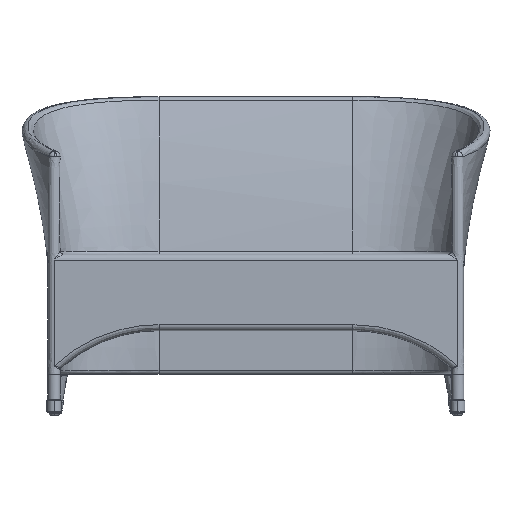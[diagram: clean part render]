
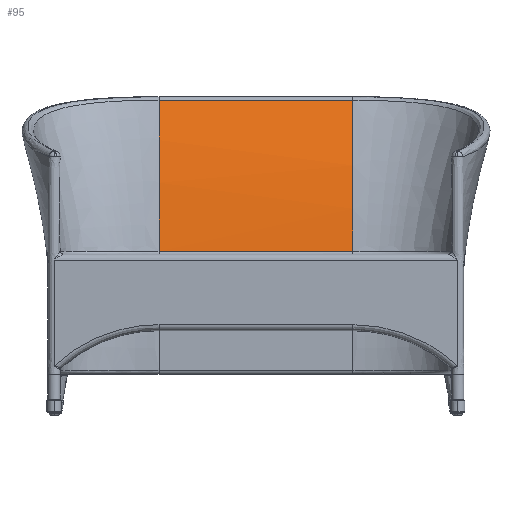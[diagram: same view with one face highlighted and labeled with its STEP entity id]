
A CAD part, front view. The second image highlights one B-rep face of the part: STEP entity #95.
In plain terms, the highlighted free-form (B-spline) face has degree [3, 1] with [11, 2] control points.
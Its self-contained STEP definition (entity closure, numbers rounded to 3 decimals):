
#95=ADVANCED_FACE('',(#259),#2496,.T.);
#259=FACE_OUTER_BOUND('',#423,.T.);
#423=EDGE_LOOP('',(#845,#846,#847,#848));
#845=ORIENTED_EDGE('',*,*,#1465,.T.);
#846=ORIENTED_EDGE('',*,*,#1466,.T.);
#847=ORIENTED_EDGE('',*,*,#1467,.T.);
#848=ORIENTED_EDGE('',*,*,#1468,.F.);
#1465=EDGE_CURVE('',#2225,#2226,#1997,.T.);
#1466=EDGE_CURVE('',#2226,#2157,#1998,.T.);
#1467=EDGE_CURVE('',#2157,#2190,#1999,.T.);
#1468=EDGE_CURVE('',#2225,#2190,#2000,.T.);
#1997=B_SPLINE_CURVE_WITH_KNOTS('',3,(#35539,#35540,#35541,#35542,#35543,
#35544,#35545,#35546,#35547,#35548,#35549),.UNSPECIFIED.,.F.,.F.,(4,1,1,
1,1,1,1,1,4),(0.,46.867,101.497,156.127,210.757,
265.387,320.017,374.647,390.079),
 .UNSPECIFIED.);
#1998=B_SPLINE_CURVE_WITH_KNOTS('',1,(#35550,#35551),.UNSPECIFIED.,.F.,
 .F.,(2,2),(0.,480.32),.UNSPECIFIED.);
#1999=B_SPLINE_CURVE_WITH_KNOTS('',3,(#35552,#35553,#35554,#35555,#35556,
#35557,#35558,#35559,#35560,#35561,#35562),.UNSPECIFIED.,.F.,.F.,(4,1,1,
1,1,1,1,1,4),(-390.079,-374.647,-320.017,-265.387,
-210.757,-156.127,-101.497,-46.867,
0.),.UNSPECIFIED.);
#2000=B_SPLINE_CURVE_WITH_KNOTS('',1,(#35563,#35564),.UNSPECIFIED.,.F.,
 .F.,(2,2),(0.,480.32),.UNSPECIFIED.);
#2157=VERTEX_POINT('',#31336);
#2190=VERTEX_POINT('',#31369);
#2225=VERTEX_POINT('',#31404);
#2226=VERTEX_POINT('',#31405);
#2496=B_SPLINE_SURFACE_WITH_KNOTS('',3,1,((#20541,#20542),(#20543,#20544),
(#20545,#20546),(#20547,#20548),(#20549,#20550),(#20551,#20552),(#20553,
#20554),(#20555,#20556),(#20557,#20558),(#20559,#20560),(#20561,#20562)),
 .UNSPECIFIED.,.F.,.F.,.F.,(4,1,1,1,1,1,1,1,4),(2,2),(0.,46.867,
101.497,156.127,210.757,265.387,320.017,
374.647,390.079),(0.,480.32),.UNSPECIFIED.);
#20541=CARTESIAN_POINT('',(0.,-29.44,781.107));
#20542=CARTESIAN_POINT('',(-480.32,-29.44,781.107));
#20543=CARTESIAN_POINT('',(0.,-35.237,767.512));
#20544=CARTESIAN_POINT('',(-480.32,-35.237,767.512));
#20545=CARTESIAN_POINT('',(0.,-47.572,737.402));
#20546=CARTESIAN_POINT('',(-480.32,-47.572,737.402));
#20547=CARTESIAN_POINT('',(0.,-65.574,689.05));
#20548=CARTESIAN_POINT('',(-480.32,-65.574,689.05));
#20549=CARTESIAN_POINT('',(0.,-83.028,636.475));
#20550=CARTESIAN_POINT('',(-480.32,-83.028,636.475));
#20551=CARTESIAN_POINT('',(0.,-98.728,582.685));
#20552=CARTESIAN_POINT('',(-480.32,-98.728,582.685));
#20553=CARTESIAN_POINT('',(0.,-112.428,528.408));
#20554=CARTESIAN_POINT('',(-480.32,-112.428,528.408));
#20555=CARTESIAN_POINT('',(0.,-123.985,474.391));
#20556=CARTESIAN_POINT('',(-480.32,-123.985,474.391));
#20557=CARTESIAN_POINT('',(0.,-131.128,433.996));
#20558=CARTESIAN_POINT('',(-480.32,-131.128,433.996));
#20559=CARTESIAN_POINT('',(0.,-134.565,411.707));
#20560=CARTESIAN_POINT('',(-480.32,-134.565,411.707));
#20561=CARTESIAN_POINT('',(0.,-135.294,406.819));
#20562=CARTESIAN_POINT('',(-480.32,-135.294,406.819));
#31336=CARTESIAN_POINT('',(-480.32,-135.294,406.819));
#31369=CARTESIAN_POINT('',(-480.32,-29.44,781.107));
#31404=CARTESIAN_POINT('',(0.,-29.44,781.107));
#31405=CARTESIAN_POINT('',(0.,-135.294,406.819));
#35539=CARTESIAN_POINT('',(0.,-29.44,781.107));
#35540=CARTESIAN_POINT('',(0.,-35.237,767.512));
#35541=CARTESIAN_POINT('',(0.,-47.572,737.402));
#35542=CARTESIAN_POINT('',(0.,-65.574,689.05));
#35543=CARTESIAN_POINT('',(0.,-83.028,636.475));
#35544=CARTESIAN_POINT('',(0.,-98.728,582.685));
#35545=CARTESIAN_POINT('',(0.,-112.428,528.408));
#35546=CARTESIAN_POINT('',(0.,-123.985,474.391));
#35547=CARTESIAN_POINT('',(0.,-131.128,433.996));
#35548=CARTESIAN_POINT('',(0.,-134.565,411.707));
#35549=CARTESIAN_POINT('',(0.,-135.294,406.819));
#35550=CARTESIAN_POINT('',(0.,-135.294,406.819));
#35551=CARTESIAN_POINT('',(-480.32,-135.294,406.819));
#35552=CARTESIAN_POINT('',(-480.32,-135.294,406.819));
#35553=CARTESIAN_POINT('',(-480.32,-134.565,411.707));
#35554=CARTESIAN_POINT('',(-480.32,-131.128,433.996));
#35555=CARTESIAN_POINT('',(-480.32,-123.985,474.391));
#35556=CARTESIAN_POINT('',(-480.32,-112.428,528.408));
#35557=CARTESIAN_POINT('',(-480.32,-98.728,582.685));
#35558=CARTESIAN_POINT('',(-480.32,-83.028,636.475));
#35559=CARTESIAN_POINT('',(-480.32,-65.574,689.05));
#35560=CARTESIAN_POINT('',(-480.32,-47.572,737.402));
#35561=CARTESIAN_POINT('',(-480.32,-35.237,767.512));
#35562=CARTESIAN_POINT('',(-480.32,-29.44,781.107));
#35563=CARTESIAN_POINT('',(0.,-29.44,781.107));
#35564=CARTESIAN_POINT('',(-480.32,-29.44,781.107));
